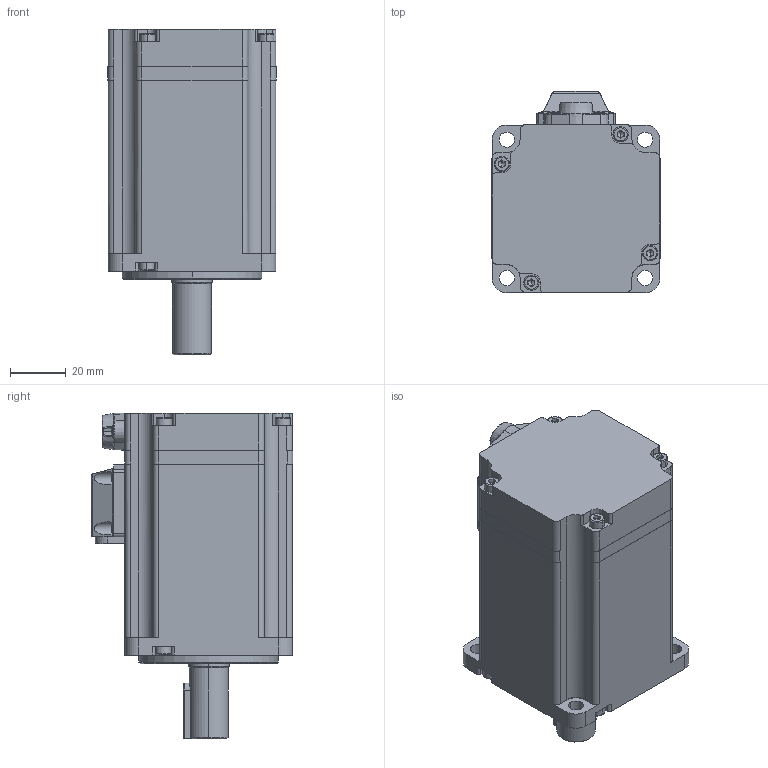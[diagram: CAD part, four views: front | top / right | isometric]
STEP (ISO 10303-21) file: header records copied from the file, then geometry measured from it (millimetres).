
FILE_DESCRIPTION((''),'2;1');
FILE_NAME('R-04E1K4A0_ASM_ASM','2021-06-15T',('lisy41'),(''),'CREO PARAMETRIC BY PTC INC, 2015480','CREO PARAMETRIC BY PTC INC, 2015480','');
FILE_SCHEMA(('CONFIG_CONTROL_DESIGN'));
Length unit declared in the file: millimetre
Products named in the file (1): R-04E1K4A0_ASM_ASM
Bounding box: 60.2 x 72.1 x 116.69 mm (x, y, z)
Volume: 296244.6 mm3; surface area: 34645 mm2
Topology: 1 solids, 36 shells, 829 faces, 2084 edges, 1322 vertices
Faces by surface type: plane 415, cylinder 289, cone 73, torus 32, sphere 12, bspline 8
Entity records: 25597 total; most frequent: CARTESIAN_POINT 5448, DIRECTION 4385, ORIENTED_EDGE 4084, EDGE_CURVE 2042, AXIS2_PLACEMENT_3D 1689, VERTEX_POINT 1322, VECTOR 1007, LINE 1007
